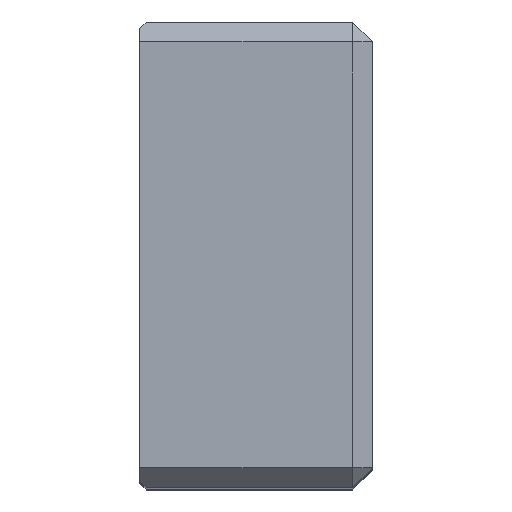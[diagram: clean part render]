
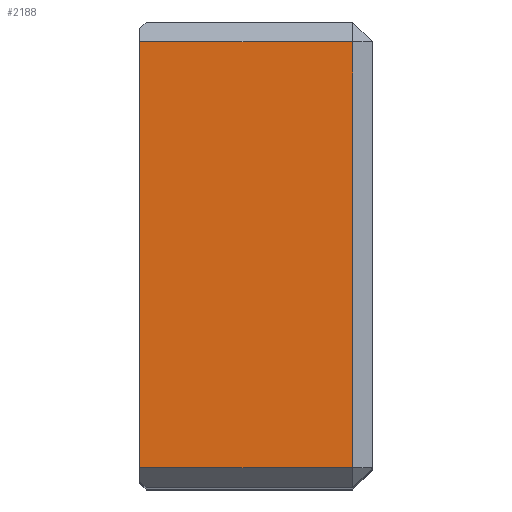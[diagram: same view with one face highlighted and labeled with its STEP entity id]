
A CAD part, top view. The second image highlights one B-rep face of the part: STEP entity #2188.
In plain terms, the highlighted planar face has unit normal (0, 0, 1).
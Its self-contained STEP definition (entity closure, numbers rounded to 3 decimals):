
#255=VERTEX_POINT(' ',#256);
#256=CARTESIAN_POINT('',(-3.,-32.,0.));
#257=VERTEX_POINT(' ',#258);
#258=CARTESIAN_POINT('',(-3.,32.,0.));
#259=VERTEX_POINT(' ',#260);
#260=CARTESIAN_POINT('',(-35.,32.,0.));
#261=VERTEX_POINT(' ',#262);
#262=CARTESIAN_POINT('',(-35.,-32.,0.));
#1043=LINE('',#1044,#1045);
#1044=CARTESIAN_POINT('',(-3.,48.971,0.));
#1045=VECTOR('',#1046,1.);
#1046=DIRECTION('',(0.,-1.,0.));
#1047=EDGE_CURVE(' ',#257,#255,#1043,.T.);
#1048=LINE('',#1049,#1050);
#1049=CARTESIAN_POINT('',(-51.971,32.,0.));
#1050=VECTOR('',#1051,1.);
#1051=DIRECTION('',(1.,0.,0.));
#1052=EDGE_CURVE(' ',#259,#257,#1048,.T.);
#1053=LINE('',#1054,#1055);
#1054=CARTESIAN_POINT('',(-35.,35.12,0.));
#1055=VECTOR('',#1056,1.);
#1056=DIRECTION('',(0.,-1.,0.));
#1057=EDGE_CURVE(' ',#259,#261,#1053,.T.);
#1058=LINE('',#1059,#1060);
#1059=CARTESIAN_POINT('',(13.971,-32.,0.));
#1060=VECTOR('',#1061,1.);
#1061=DIRECTION('',(-1.,0.,0.));
#1062=EDGE_CURVE(' ',#255,#261,#1058,.T.);
#2177=ORIENTED_EDGE('',*,*,#1047,.F.);
#2178=ORIENTED_EDGE('',*,*,#1052,.F.);
#2179=ORIENTED_EDGE('',*,*,#1057,.T.);
#2180=ORIENTED_EDGE('',*,*,#1062,.F.);
#2181=EDGE_LOOP('',(#2177,#2178,#2179,#2180));
#2182=FACE_OUTER_BOUND('',#2181,.T.);
#2183=PLANE('',#2184);
#2184=AXIS2_PLACEMENT_3D('',#2185,#2186,#2187);
#2185=CARTESIAN_POINT('',(0.,35.,0.));
#2186=DIRECTION('',(0.,0.,1.));
#2187=DIRECTION('',(0.,-1.,0.));
#2188=ADVANCED_FACE('',(#2182),#2183,.T.);
